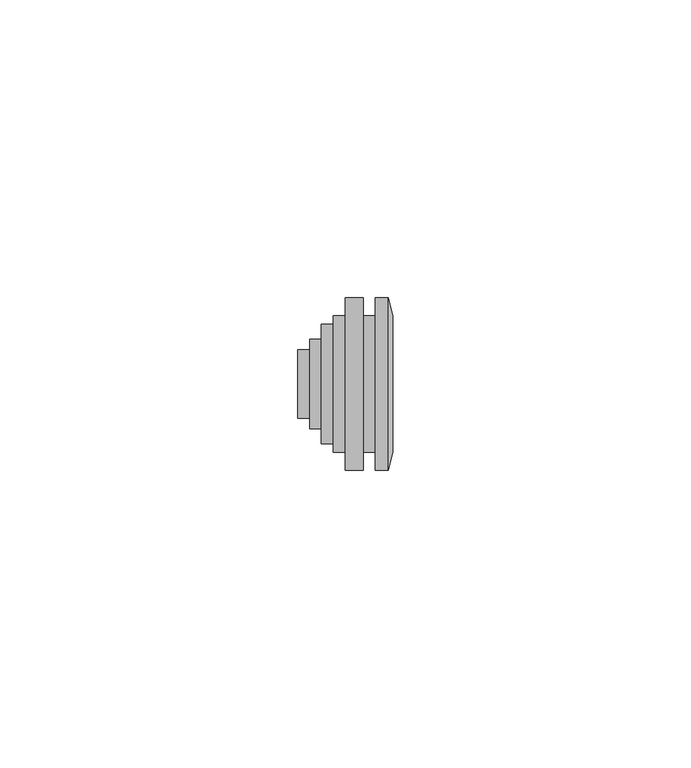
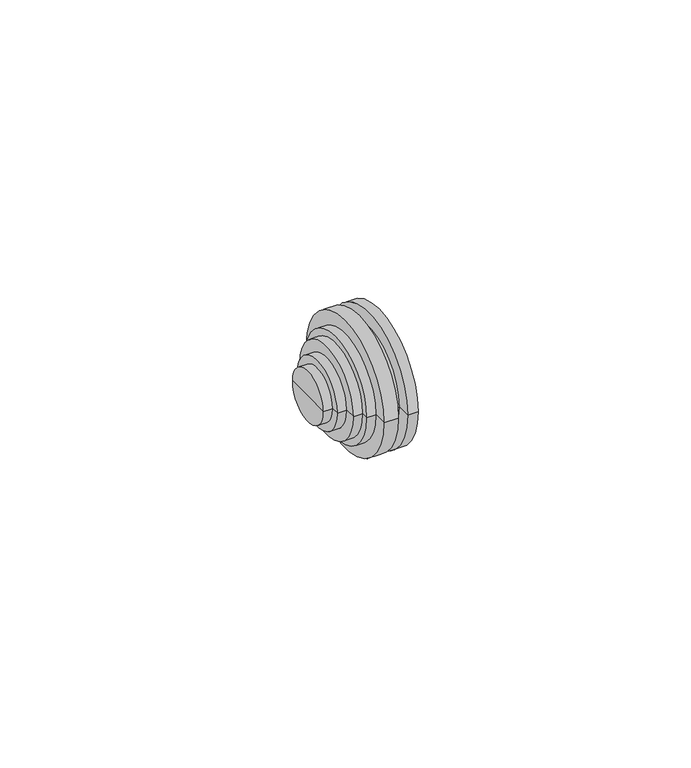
"""IFC4 building model written with IfcOpenShell, lengths in millimetres: cable carrier fitting geometry, КНС_КабельныйВводДляТруб_IP55_DKC : Коробка."""

from ifc_helpers import new_model, si_unit, frame, origin, place, context, project, spatial, polyline, circle_curve, source, transform, mapped, element, save
from ifc_brep_helpers import plane_surface, cylinder_surface, revolved_surface, advanced_brep


def cable_carrier_fitting_53d51709(model_context):
    return source(origin(), model_context, "Body", "AdvancedBrep", [
        advanced_brep(
        [(11.0, -11.5, 0.0), (11.0, 11.5, 0.0), (11.0, 14.5, 0.0), (11.0, -14.5, 0.0), (9.0, -11.5, 0.0), (9.0, 11.5, 0.0), (9.0, -14.5, 0.0), (9.0, 14.5, 0.0), (6.0, -14.5, 0.0), (6.0, 14.5, 0.0), (6.0, -11.5, 0.0), (6.0, 11.5, 0.0), (4.0, -11.5, 0.0), (4.0, 11.5, 0.0), (4.0, -10.0, 0.0), (4.0, 10.0, 0.0), (2.0, -10.0, 0.0), (2.0, 10.0, 0.0), (2.0, -7.5, 0.0), (2.0, 7.5, 0.0), (0.0, -7.5, 0.0), (0.0, 7.5, 0.0), (0.0, -5.75, 0.0), (0.0, 5.75, 0.0), (-2.0, -5.75, 0.0), (-2.0, 5.75, 0.0), (-2.0, 0.0, 0.0), (14.0, -11.5, 0.0), (14.0, 11.5, 0.0), (14.0, 0.0, 0.0), (13.2508863, -14.5, 0.0), (13.2508863, 14.5, 0.0)],
        [
            (0, 1, circle_curve(frame((11.0, 0.0, 0.0), z_axis=(1.0, 0.0, 0.0), x_axis=(0.0, 1.0, 0.0)), 11.5)),
            (1, 2),
            (2, 3, circle_curve(frame((11.0, 0.0, 0.0), z_axis=(-1.0, 0.0, 0.0), x_axis=(0.0, 1.0, 0.0)), 14.5)),
            (3, 0),
            (1, 0, circle_curve(frame((11.0, 0.0, 0.0), z_axis=(1.0, 0.0, 0.0), x_axis=(0.0, 1.0, 0.0)), 11.5)),
            (3, 2, circle_curve(frame((11.0, 0.0, 0.0), z_axis=(-1.0, 0.0, 0.0), x_axis=(0.0, 1.0, 0.0)), 14.5)),
            (4, 5, circle_curve(frame((9.0, 0.0, 0.0), z_axis=(1.0, 0.0, 0.0), x_axis=(0.0, 1.0, 0.0)), 11.5)),
            (5, 1),
            (0, 4),
            (5, 4, circle_curve(frame((9.0, 0.0, 0.0), z_axis=(1.0, 0.0, 0.0), x_axis=(0.0, 1.0, 0.0)), 11.5)),
            (6, 7, circle_curve(frame((9.0, 0.0, 0.0), z_axis=(1.0, 0.0, 0.0), x_axis=(0.0, 1.0, 0.0)), 14.5)),
            (7, 5),
            (4, 6),
            (7, 6, circle_curve(frame((9.0, 0.0, 0.0), z_axis=(1.0, 0.0, 0.0), x_axis=(0.0, 1.0, 0.0)), 14.5)),
            (8, 9, circle_curve(frame((6.0, 0.0, 0.0), z_axis=(1.0, 0.0, 0.0), x_axis=(0.0, 1.0, 0.0)), 14.5)),
            (9, 7),
            (6, 8),
            (9, 8, circle_curve(frame((6.0, 0.0, 0.0), z_axis=(1.0, 0.0, 0.0), x_axis=(0.0, 1.0, 0.0)), 14.5)),
            (10, 11, circle_curve(frame((6.0, 0.0, 0.0), z_axis=(1.0, 0.0, 0.0), x_axis=(0.0, 1.0, 0.0)), 11.5)),
            (11, 9),
            (8, 10),
            (11, 10, circle_curve(frame((6.0, 0.0, 0.0), z_axis=(1.0, 0.0, 0.0), x_axis=(0.0, 1.0, 0.0)), 11.5)),
            (12, 13, circle_curve(frame((4.0, 0.0, 0.0), z_axis=(1.0, 0.0, 0.0), x_axis=(0.0, 1.0, 0.0)), 11.5)),
            (13, 11),
            (10, 12),
            (13, 12, circle_curve(frame((4.0, 0.0, 0.0), z_axis=(1.0, 0.0, 0.0), x_axis=(0.0, 1.0, 0.0)), 11.5)),
            (14, 15, circle_curve(frame((4.0, 0.0, 0.0), z_axis=(1.0, 0.0, 0.0), x_axis=(0.0, 1.0, 0.0)), 10.0)),
            (15, 13),
            (12, 14),
            (15, 14, circle_curve(frame((4.0, 0.0, 0.0), z_axis=(1.0, 0.0, 0.0), x_axis=(0.0, 1.0, 0.0)), 10.0)),
            (16, 17, circle_curve(frame((2.0, 0.0, 0.0), z_axis=(1.0, 0.0, 0.0), x_axis=(0.0, 1.0, 0.0)), 10.0)),
            (17, 15),
            (14, 16),
            (17, 16, circle_curve(frame((2.0, 0.0, 0.0), z_axis=(1.0, 0.0, 0.0), x_axis=(0.0, 1.0, 0.0)), 10.0)),
            (18, 19, circle_curve(frame((2.0, 0.0, 0.0), z_axis=(1.0, 0.0, 0.0), x_axis=(0.0, 1.0, 0.0)), 7.5)),
            (19, 17),
            (16, 18),
            (19, 18, circle_curve(frame((2.0, 0.0, 0.0), z_axis=(1.0, 0.0, 0.0), x_axis=(0.0, 1.0, 0.0)), 7.5)),
            (20, 21, circle_curve(frame((0.0, 0.0, 0.0), z_axis=(1.0, 0.0, 0.0), x_axis=(0.0, 1.0, 0.0)), 7.5)),
            (21, 19),
            (18, 20),
            (21, 20, circle_curve(frame((0.0, 0.0, 0.0), z_axis=(1.0, 0.0, 0.0), x_axis=(0.0, 1.0, 0.0)), 7.5)),
            (22, 23, circle_curve(frame((0.0, 0.0, 0.0), z_axis=(1.0, 0.0, 0.0), x_axis=(0.0, 1.0, 0.0)), 5.75)),
            (23, 21),
            (20, 22),
            (23, 22, circle_curve(frame((0.0, 0.0, 0.0), z_axis=(1.0, 0.0, 0.0), x_axis=(0.0, 1.0, 0.0)), 5.75)),
            (24, 25, circle_curve(frame((-2.0, 0.0, 0.0), z_axis=(1.0, 0.0, 0.0), x_axis=(0.0, 1.0, 0.0)), 5.75)),
            (25, 23),
            (22, 24),
            (25, 24, circle_curve(frame((-2.0, 0.0, 0.0), z_axis=(1.0, 0.0, 0.0), x_axis=(0.0, 1.0, 0.0)), 5.75)),
            (26, 25),
            (24, 26),
            (27, 28, circle_curve(frame((14.0, 0.0, 0.0), z_axis=(1.0, 0.0, 0.0), x_axis=(0.0, 1.0, 0.0)), 11.5)),
            (28, 29),
            (29, 27),
            (28, 27, circle_curve(frame((14.0, 0.0, 0.0), z_axis=(1.0, 0.0, 0.0), x_axis=(0.0, 1.0, 0.0)), 11.5)),
            (30, 31, circle_curve(frame((13.2508863, 0.0, 0.0), z_axis=(1.0, 0.0, 0.0), x_axis=(0.0, 1.0, 0.0)), 14.5)),
            (31, 28),
            (27, 30),
            (31, 30, circle_curve(frame((13.2508863, 0.0, 0.0), z_axis=(1.0, 0.0, 0.0), x_axis=(0.0, 1.0, 0.0)), 14.5)),
            (2, 31),
            (30, 3),
        ],
        [
            plane_surface(frame((11.0, 0.0, 0.0), z_axis=(-1.0, 0.0, 0.0), x_axis=(0.0, 1.0, 0.0))),
            cylinder_surface(frame((1524.0, 0.0, 0.0), z_axis=(-1.0, 0.0, 0.0), x_axis=(0.0, 1.0, 0.0)), 11.5),
            plane_surface(frame((9.0, 0.0, 0.0), z_axis=(1.0, 0.0, 0.0), x_axis=(0.0, 1.0, 0.0))),
            cylinder_surface(frame((1524.0, 0.0, 0.0), z_axis=(-1.0, 0.0, 0.0), x_axis=(0.0, 1.0, 0.0)), 14.5),
            plane_surface(frame((6.0, 0.0, 0.0), z_axis=(-1.0, 0.0, 0.0), x_axis=(0.0, 1.0, 0.0))),
            plane_surface(frame((4.0, 0.0, 0.0), z_axis=(-1.0, 0.0, 0.0), x_axis=(0.0, 1.0, 0.0))),
            cylinder_surface(frame((1524.0, 0.0, 0.0), z_axis=(-1.0, 0.0, 0.0), x_axis=(0.0, 1.0, 0.0)), 10.0),
            plane_surface(frame((2.0, 0.0, 0.0), z_axis=(-1.0, 0.0, 0.0), x_axis=(0.0, 1.0, 0.0))),
            cylinder_surface(frame((1524.0, 0.0, 0.0), z_axis=(-1.0, 0.0, 0.0), x_axis=(0.0, 1.0, 0.0)), 7.5),
            plane_surface(frame((0.0, 0.0, 0.0), z_axis=(-1.0, 0.0, 0.0), x_axis=(0.0, 1.0, 0.0))),
            cylinder_surface(frame((1524.0, 0.0, 0.0), z_axis=(-1.0, 0.0, 0.0), x_axis=(0.0, 1.0, 0.0)), 5.75),
            plane_surface(frame((-2.0, 0.0, 0.0), z_axis=(-1.0, 0.0, 0.0), x_axis=(0.0, 1.0, 0.0))),
            plane_surface(frame((14.0, 0.0, 0.0), z_axis=(1.0, 0.0, 0.0), x_axis=(0.0, 1.0, 0.0))),
            revolved_surface(polyline([(14.0, 11.5, 0.0), (13.2508863, 14.5, 0.0)]), (1524.0, 0.0, 0.0), (-1.0, 0.0, 0.0)),
        ],
        [
            (0, [[1, 2, 3, 4]]),
            (0, [[5, -4, 6, -2]]),
            (1, [[7, 8, -1, 9]]),
            (1, [[10, -9, -5, -8]]),
            (2, [[11, 12, -7, 13]]),
            (2, [[14, -13, -10, -12]]),
            (3, [[15, 16, -11, 17]]),
            (3, [[18, -17, -14, -16]]),
            (4, [[19, 20, -15, 21]]),
            (4, [[22, -21, -18, -20]]),
            (1, [[23, 24, -19, 25]]),
            (1, [[26, -25, -22, -24]]),
            (5, [[27, 28, -23, 29]]),
            (5, [[30, -29, -26, -28]]),
            (6, [[31, 32, -27, 33]]),
            (6, [[34, -33, -30, -32]]),
            (7, [[35, 36, -31, 37]]),
            (7, [[38, -37, -34, -36]]),
            (8, [[39, 40, -35, 41]]),
            (8, [[42, -41, -38, -40]]),
            (9, [[43, 44, -39, 45]]),
            (9, [[46, -45, -42, -44]]),
            (10, [[47, 48, -43, 49]]),
            (10, [[50, -49, -46, -48]]),
            (11, [[51, -47, 52]]),
            (11, [[-52, -50, -51]]),
            (12, [[53, 54, 55]]),
            (12, [[56, -55, -54]]),
            (13, [[57, 58, -53, 59]]),
            (13, [[60, -59, -56, -58]]),
            (3, [[-3, 61, -57, 62]]),
            (3, [[-6, -62, -60, -61]]),
        ],
    ),
    ])


if __name__ == "__main__":
    model = new_model("IFC4")
    model_context = context("Model", 3, world=origin())
    ifc_project = project(units=[si_unit("LENGTHUNIT", "METRE", prefix="MILLI")], contexts=[model_context])
    site = spatial("IfcSite", under=ifc_project)
    building = spatial("IfcBuilding", under=site)
    placement = place(None, origin())
    cable_carrier_fitting_shape = cable_carrier_fitting_53d51709(model_context)
    element("IfcCableCarrierFitting", 1, ObjectType="КНС_КабельныйВводДляТруб_IP55_DKC : Коробка", at=placement, inside=building, context=model_context, shape_type="MappedRepresentation", body=[
        mapped(cable_carrier_fitting_shape, transform((0.0, 0.0, 0.0), x_axis=(1.0, 0.0, 0.0), y_axis=(0.0, 1.0, 0.0), z_axis=(0.0, 0.0, 1.0))),
    ])
    save(model, "model.ifc")
